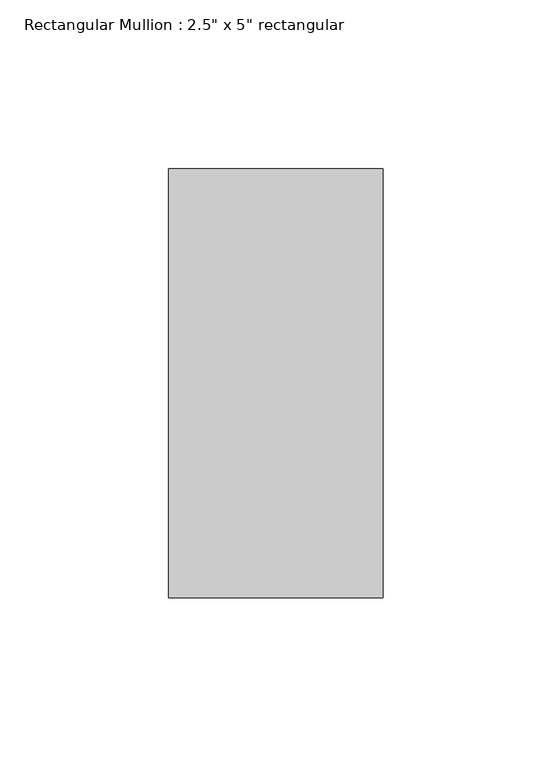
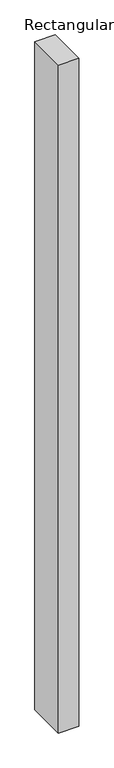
"""IFC4 building model written with IfcOpenShell, lengths in millimetres: member geometry."""

from ifc_helpers import new_model, si_unit, frame, origin, place, context, project, spatial, polyline, outline, extrude, source, transform, mapped, element, save


def member_1526e78e(model_context):
    return source(origin(), model_context, "Body", "SweptSolid", [
        extrude(outline(polyline([(31.75, 63.5), (31.75, -63.5), (-31.75, -63.5), (-31.75, 63.5), (31.75, 63.5)])), frame((0.0, 0.0, -2197.1), z_axis=(0.0, 0.0, 1.0), x_axis=(1.0, 0.0, 0.0)), (0.0, 0.0, 1.0), 2197.1),
    ])


if __name__ == "__main__":
    model = new_model("IFC4")
    model_context = context("Model", 3, world=origin())
    ifc_project = project(units=[si_unit("LENGTHUNIT", "METRE", prefix="MILLI")], contexts=[model_context])
    site = spatial("IfcSite", under=ifc_project)
    building = spatial("IfcBuilding", under=site)
    placement = place(None, origin())
    member_shape = member_1526e78e(model_context)
    element("IfcMember", 1, ObjectType="Rectangular Mullion : 2.5\" x 5\" rectangular", at=placement, inside=building, context=model_context, shape_type="MappedRepresentation", body=[
        mapped(member_shape, transform((0.0, 0.0, 0.0), x_axis=(1.0, 0.0, 0.0), y_axis=(0.0, 1.0, 0.0), z_axis=(0.0, 0.0, 1.0))),
    ])
    save(model, "model.ifc")
